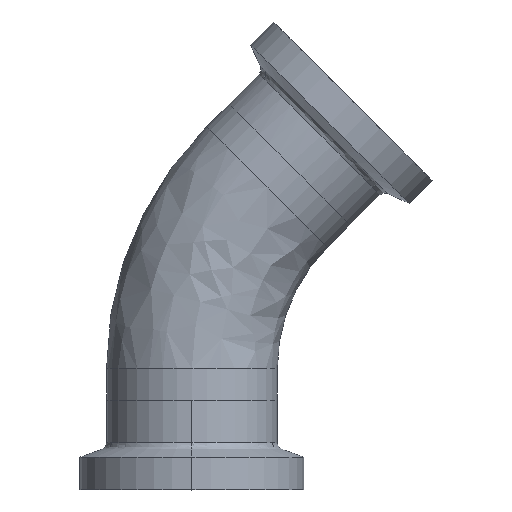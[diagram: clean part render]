
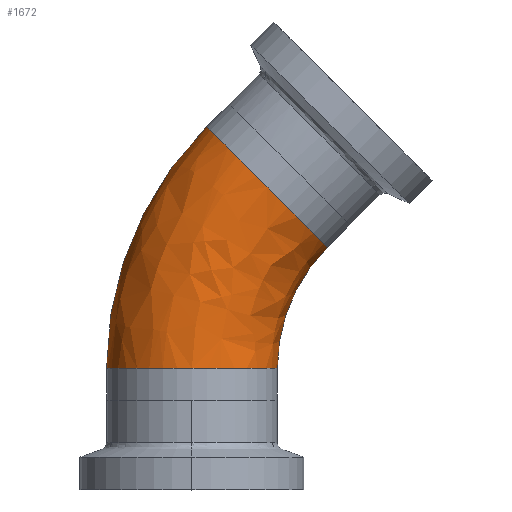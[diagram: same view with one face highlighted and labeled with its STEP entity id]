
A CAD part, top view. The second image highlights one B-rep face of the part: STEP entity #1672.
In plain terms, the highlighted free-form (B-spline) face has degree [3, 3] with [4, 4] control points.
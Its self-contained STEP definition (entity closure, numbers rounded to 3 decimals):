
#9 = DIRECTION ( 'NONE',  ( -0.707, 0.707, 0. ) ) ;
#33 = DIRECTION ( 'NONE',  ( -0.707, -0.707, 0. ) ) ;
#89 = CIRCLE ( 'NONE', #1561, 19.075 ) ;
#127 = ORIENTED_EDGE ( 'NONE', *, *, #1997, .F. ) ;
#131 = CARTESIAN_POINT ( 'NONE',  ( 8.377, 23.777, 0. ) ) ;
#172 = ORIENTED_EDGE ( 'NONE', *, *, #1099, .T. ) ;
#217 = DIRECTION ( 'NONE',  ( -1., 0., 0. ) ) ;
#614 = ORIENTED_EDGE ( 'NONE', *, *, #922, .T. ) ;
#740 = FACE_OUTER_BOUND ( 'NONE', #1260, .T. ) ;
#808 = CARTESIAN_POINT ( 'NONE',  ( 9.525, 3.553, 0. ) ) ;
#831 = CARTESIAN_POINT ( 'NONE',  ( 1.642, 30.512, 0. ) ) ;
#838 = AXIS2_PLACEMENT_3D ( 'NONE', #1921, #1505, #217 ) ;
#922 = EDGE_CURVE ( 'NONE', #1785, #1272, #1001, .T. ) ;
#994 = CARTESIAN_POINT ( 'NONE',  ( 9.525, 8.68, 0. ) ) ;
#995 =( BOUNDED_SURFACE ( )  B_SPLINE_SURFACE ( 3, 3, ( 
 ( #1648, #1662, #1484, #1475 ),
 ( #1351, #1333, #1195, #1190 ),
 ( #1172, #1047, #1038, #1011 ),
 ( #1002, #994, #1677, #1019 ) ),
 .UNSPECIFIED., .F., .F., .T. ) 
 B_SPLINE_SURFACE_WITH_KNOTS ( ( 4, 4 ),
 ( 4, 4 ),
 ( 0., 1. ),
 ( 0., 1. ),
 .UNSPECIFIED. ) 
 GEOMETRIC_REPRESENTATION_ITEM ( )  RATIONAL_B_SPLINE_SURFACE ( (
 ( 1., 0.949, 0.949, 1.),
 ( 0.333, 0.316, 0.316, 0.333),
 ( 0.333, 0.316, 0.316, 0.333),
 ( 1., 0.949, 0.949, 1.) ) ) 
 REPRESENTATION_ITEM ( '' )  SURFACE ( )  );
#1001 = CIRCLE ( 'NONE', #838, 9.525 ) ;
#1002 = CARTESIAN_POINT ( 'NONE',  ( 9.525, 3.553, 0. ) ) ;
#1011 = CARTESIAN_POINT ( 'NONE',  ( 15.112, 17.042, 19.05 ) ) ;
#1019 = CARTESIAN_POINT ( 'NONE',  ( 15.112, 17.042, 0. ) ) ;
#1037 = CIRCLE ( 'NONE', #1487, 9.525 ) ;
#1038 = CARTESIAN_POINT ( 'NONE',  ( 11.487, 13.416, 19.05 ) ) ;
#1047 = CARTESIAN_POINT ( 'NONE',  ( 9.525, 8.68, 19.05 ) ) ;
#1099 = EDGE_CURVE ( 'NONE', #1272, #1425, #89, .T. ) ;
#1172 = CARTESIAN_POINT ( 'NONE',  ( 9.525, 3.553, 19.05 ) ) ;
#1190 = CARTESIAN_POINT ( 'NONE',  ( 1.642, 30.512, 19.05 ) ) ;
#1195 = CARTESIAN_POINT ( 'NONE',  ( -5.604, 23.267, 19.05 ) ) ;
#1245 = VERTEX_POINT ( 'NONE', #831 ) ;
#1260 = EDGE_LOOP ( 'NONE', ( #614, #172, #1886, #127 ) ) ;
#1272 = VERTEX_POINT ( 'NONE', #808 ) ;
#1333 = CARTESIAN_POINT ( 'NONE',  ( -9.525, 13.8, 19.05 ) ) ;
#1351 = CARTESIAN_POINT ( 'NONE',  ( -9.525, 3.553, 19.05 ) ) ;
#1353 = CIRCLE ( 'NONE', #1808, 38.125 ) ;
#1425 = VERTEX_POINT ( 'NONE', #1983 ) ;
#1475 = CARTESIAN_POINT ( 'NONE',  ( 1.642, 30.512, 0. ) ) ;
#1484 = CARTESIAN_POINT ( 'NONE',  ( -5.604, 23.267, 0. ) ) ;
#1487 = AXIS2_PLACEMENT_3D ( 'NONE', #131, #33, #9 ) ;
#1492 = CARTESIAN_POINT ( 'NONE',  ( -9.525, 3.553, 0. ) ) ;
#1505 = DIRECTION ( 'NONE',  ( 0., 1., 0. ) ) ;
#1553 = EDGE_CURVE ( 'NONE', #1425, #1245, #1037, .T. ) ;
#1561 = AXIS2_PLACEMENT_3D ( 'NONE', #1712, #1706, #1629 ) ;
#1629 = DIRECTION ( 'NONE',  ( -1., 0., 0. ) ) ;
#1648 = CARTESIAN_POINT ( 'NONE',  ( -9.525, 3.553, 0. ) ) ;
#1662 = CARTESIAN_POINT ( 'NONE',  ( -9.525, 13.8, 0. ) ) ;
#1672 = ADVANCED_FACE ( 'NONE', ( #740 ), #995, .T. ) ;
#1677 = CARTESIAN_POINT ( 'NONE',  ( 11.487, 13.416, 0. ) ) ;
#1706 = DIRECTION ( 'NONE',  ( 0., 0., -1. ) ) ;
#1712 = CARTESIAN_POINT ( 'NONE',  ( 28.6, 3.553, 0. ) ) ;
#1785 = VERTEX_POINT ( 'NONE', #1492 ) ;
#1808 = AXIS2_PLACEMENT_3D ( 'NONE', #1891, #1867, #1848 ) ;
#1848 = DIRECTION ( 'NONE',  ( -1., 0., 0. ) ) ;
#1867 = DIRECTION ( 'NONE',  ( 0., 0., -1. ) ) ;
#1886 = ORIENTED_EDGE ( 'NONE', *, *, #1553, .T. ) ;
#1891 = CARTESIAN_POINT ( 'NONE',  ( 28.6, 3.553, 0. ) ) ;
#1921 = CARTESIAN_POINT ( 'NONE',  ( 0., 3.553, 0. ) ) ;
#1983 = CARTESIAN_POINT ( 'NONE',  ( 15.112, 17.042, 0. ) ) ;
#1997 = EDGE_CURVE ( 'NONE', #1785, #1245, #1353, .T. ) ;
